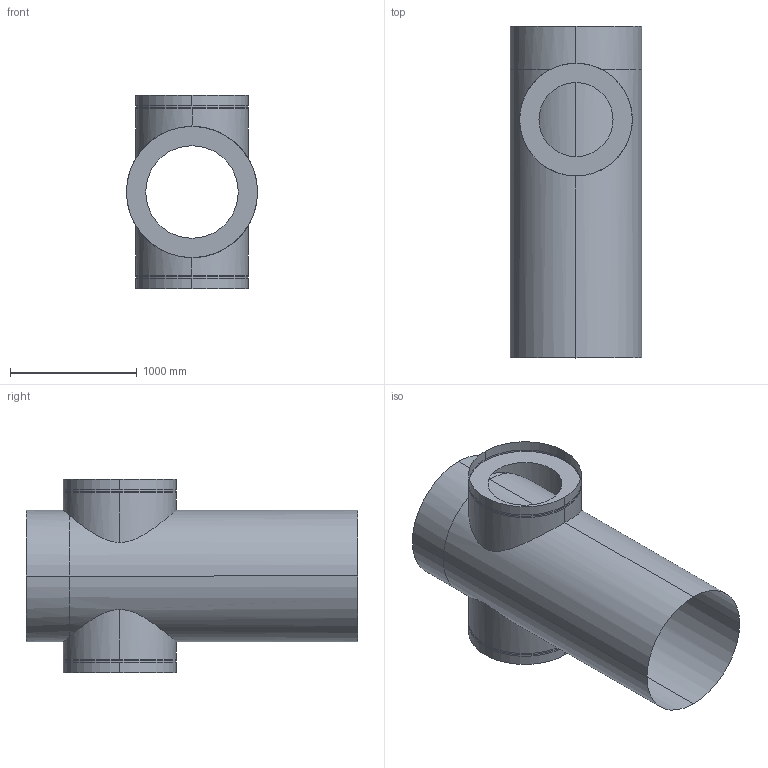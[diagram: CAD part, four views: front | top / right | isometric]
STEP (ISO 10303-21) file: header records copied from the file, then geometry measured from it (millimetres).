
FILE_DESCRIPTION(('FreeCAD Model'),'2;1');
FILE_NAME('C:/Users/vhoang/Desktop/Trunnion/TrunnionShell.step', '2015-08-15T22:05:32',('Author'),(''), 'Open CASCADE STEP processor 6.8','FreeCAD','Unknown');
FILE_SCHEMA(('AUTOMOTIVE_DESIGN_CC2 { 1 2 10303 214 -1 1 5 4 }'));
Length unit declared in the file: inch
Products named in the file (1): Fusion
Bounding box: 1035.05 x 2618.51 x 1524 mm (x, y, z)
Surface area: 11656011.3 mm2 (no closed solid volume)
Topology: 0 solids, 4 shells, 51 faces, 116 edges, 68 vertices
Faces by surface type: cylinder 46, plane 3, bspline 2
Entity records: 10225 total; most frequent: CARTESIAN_POINT 7898, DIRECTION 302, ORIENTED_EDGE 232, PCURVE 204, DEFINITIONAL_REPRESENTATION 204, B_SPLINE_CURVE_WITH_KNOTS 166, EDGE_CURVE 116, SURFACE_CURVE 116
